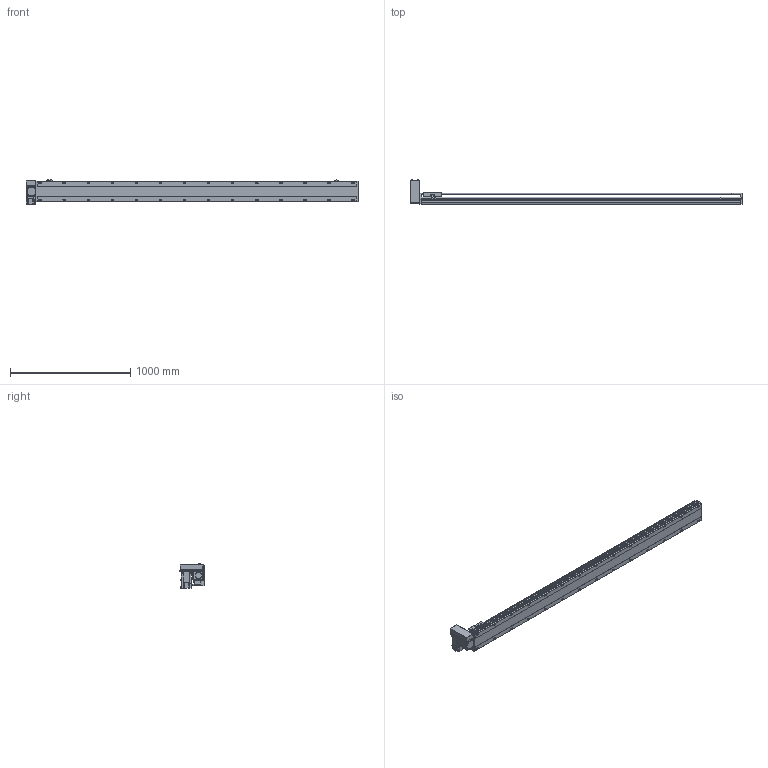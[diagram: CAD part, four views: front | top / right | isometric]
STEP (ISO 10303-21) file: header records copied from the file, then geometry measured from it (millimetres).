
FILE_DESCRIPTION(/* description */ ('STEP AP214'),/* implementation_level */ '2;1');
FILE_NAME(/* name */ 'PBS170-P40-S2400-RU-T75-C1-N(0)',/* time_stamp */ '2022-06-08T08:00:32+02:00',/* author */ ('License CC BY-ND 4.0'),/* organization */ ('CADENAS'),/* preprocessor_version */ 'ST-DEVELOPER v18.102',/* originating_system */ 'PARTsolutions',/* authorisation */ ' ');
FILE_SCHEMA (('AUTOMOTIVE_DESIGN {1 0 10303 214 3 1 1}'));
Length unit declared in the file: millimetre
Products named in the file (7): PBS170-P40-S2400-RU-T75-C1-N(0); PBS170_sensor; PBS170_plant; PBS170_sliser; T75-p1; PBS170T-RU_motors; PBS170-S2400()_body
Assembly tree (8 placements, depth 2):
  PBS170-P40-S2400-RU-T75-C1-N(0)
    PBS170_sensor  x3
    PBS170_plant
    PBS170_sliser
    T75-p1
    PBS170T-RU_motors
    PBS170-S2400()_body
Bounding box: 2763 x 206 x 205.3 mm (x, y, z)
Volume: 20968084.4 mm3; surface area: 2642827.1 mm2
Topology: 8 solids, 8 shells, 1178 faces, 3115 edges, 2030 vertices
Faces by surface type: plane 723, cylinder 387, cone 58, sphere 8, torus 2
Full cylindrical faces by diameter (mm): 3.242 x4, 4 x2, 4.4 x4, 4.5 x6, 4.917 x4, 6 x9, 6.647 x36, 7 x2, 7.5 x4, 8 x8, 8.5 x28, 10 x4, 10.5 x28, 11 x2, 30 x2, 40 x1, 70 x1
Entity records: 33866 total; most frequent: CARTESIAN_POINT 6385, DIRECTION 5720, ORIENTED_EDGE 5388, EDGE_CURVE 2694, AXIS2_PLACEMENT_3D 2017, VERTEX_POINT 1874, LINE 1686, VECTOR 1686
